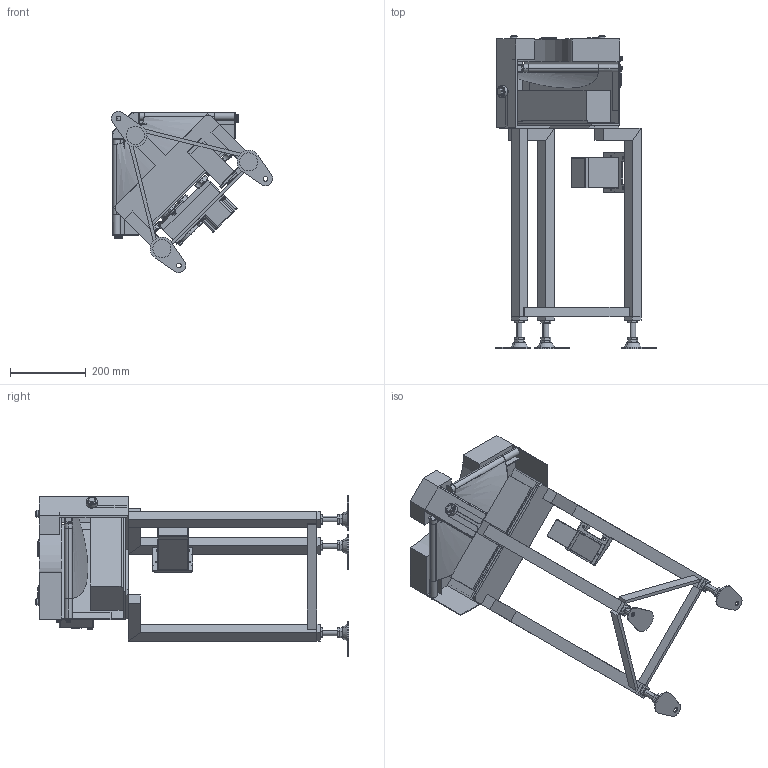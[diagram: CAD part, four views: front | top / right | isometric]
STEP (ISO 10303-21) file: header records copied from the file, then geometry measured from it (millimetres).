
FILE_DESCRIPTION (( 'STEP AP214' ), '1' );
FILE_NAME ('GBC90-HS100-DC-L.STEP', '2024-01-18T00:08:56', ( '' ), ( '' ), 'SwSTEP 2.0', 'SolidWorks 2017', '' );
FILE_SCHEMA (( 'AUTOMOTIVE_DESIGN' ));
Length unit declared in the file: millimetre
Products named in the file (1): GBC90-HS100-DC-L
Bounding box: 426.08 x 827.92 x 426.08 mm (x, y, z)
Volume: 10838116.3 mm3; surface area: 1645874.4 mm2
Topology: 73 solids, 73 shells, 1451 faces, 3350 edges, 2106 vertices
Faces by surface type: plane 781, cylinder 404, cone 151, bspline 65, torus 40, sphere 10
Entity records: 49705 total; most frequent: CARTESIAN_POINT 15963, DIRECTION 6868, ORIENTED_EDGE 6644, EDGE_CURVE 3322, AXIS2_PLACEMENT_3D 2487, VERTEX_POINT 2106, LINE 1894, VECTOR 1894
